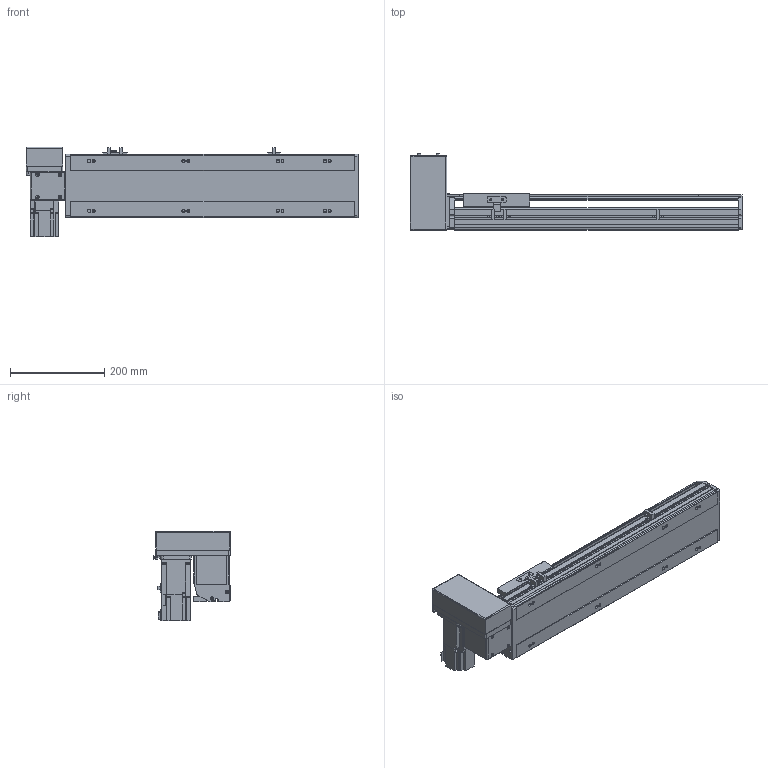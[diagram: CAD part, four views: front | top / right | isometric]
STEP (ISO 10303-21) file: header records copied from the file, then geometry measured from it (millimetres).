
FILE_DESCRIPTION( ( 'STEP AP214' ), '1' );
FILE_NAME( 'x:/temp/worker_4/temp/exporttempdir_2248_93_nyWm7/format_0/PBS140-P40-S350-RU-T40-C1-N(0).stp', '2022-06-07T05:52:55', ( 'License CC BY-ND 4.0' ), ( 'CADENAS' ), ' ', 'PARTsolutions', ' ' );
FILE_SCHEMA( ( 'AUTOMOTIVE_DESIGN { 1 0 10303 214 1 1 1 1 }' ) );
Length unit declared in the file: millimetre
Products named in the file (7): PBS140-P40-S350-RU-T40-C1-N(0); _PBS140-S350()_body; _PBS140T-RU_motors; _T40-p1; _PBS140_sliser; _PBS140_plant; _PBS140_sensor
Assembly tree (8 placements, depth 2):
  PBS140-P40-S350-RU-T40-C1-N(0)
    _PBS140-S350()_body
    _PBS140T-RU_motors
    _T40-p1
    _PBS140_sliser
    _PBS140_plant
    _PBS140_sensor  x3
Bounding box: 704 x 162.5 x 189.7 mm (x, y, z)
Volume: 3787770.8 mm3; surface area: 689097.4 mm2
Topology: 8 solids, 8 shells, 1011 faces, 2676 edges, 1749 vertices
Faces by surface type: plane 668, cylinder 299, cone 34, sphere 8, torus 2
Full cylindrical faces by diameter (mm): 3.242 x4, 4 x2, 4.134 x4, 4.4 x8, 4.5 x2, 4.8 x4, 4.917 x16, 5.5 x7, 6 x2, 7 x10, 7.5 x8, 8 x12, 8.5 x4, 10.5 x8, 14 x1, 30 x2, 50 x2
Entity records: 36721 total; most frequent: CARTESIAN_POINT 5579, DIRECTION 4917, ORIENTED_EDGE 4672, EDGE_CURVE 2336, AXIS2_PLACEMENT_3D 1687, VERTEX_POINT 1605, LINE 1543, VECTOR 1543
